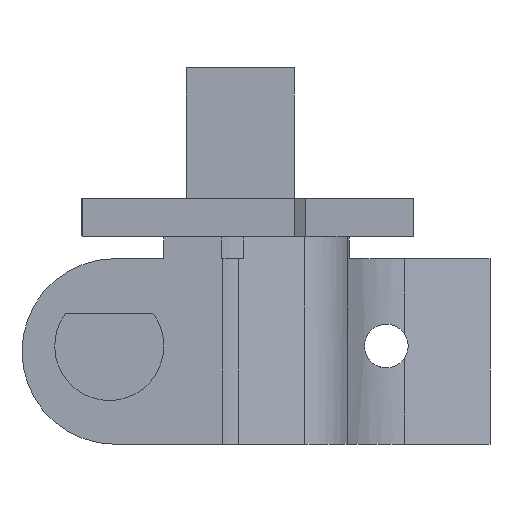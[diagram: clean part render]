
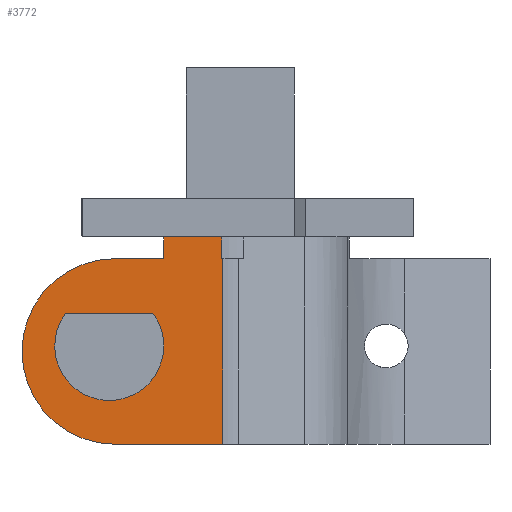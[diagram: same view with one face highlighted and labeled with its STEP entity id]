
A CAD part, front view. The second image highlights one B-rep face of the part: STEP entity #3772.
In plain terms, the highlighted planar face has unit normal (0, -1, 0).
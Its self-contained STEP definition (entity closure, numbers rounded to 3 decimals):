
#2720 = DIRECTION ( 'NONE',  ( 1., 0., 0. ) ) ;
#2721 = VECTOR ( 'NONE', #2720, 1000. ) ;
#2722 = CARTESIAN_POINT ( 'NONE',  ( -2.793, -10.431, 33.1 ) ) ;
#2723 = LINE ( 'NONE', #2722, #2721 ) ;
#2737 = DIRECTION ( 'NONE',  ( -1., 0., 0. ) ) ;
#2738 = VECTOR ( 'NONE', #2737, 1000. ) ;
#2739 = CARTESIAN_POINT ( 'NONE',  ( -17.209, -10.431, 26.1 ) ) ;
#2740 = LINE ( 'NONE', #2739, #2738 ) ;
#2741 = CARTESIAN_POINT ( 'NONE',  ( -2.894, -10.431, 31.1 ) ) ;
#2743 = CARTESIAN_POINT ( 'NONE',  ( -2.894, -10.431, 33.1 ) ) ;
#2916 = CARTESIAN_POINT ( 'NONE',  ( -12.709, -10.431, 14.1 ) ) ;
#2917 = VECTOR ( 'NONE', #2920, 1000. ) ;
#2919 = LINE ( 'NONE', #2974, #2973 ) ;
#2920 = DIRECTION ( 'NONE',  ( -1., 0., 0. ) ) ;
#2921 = CARTESIAN_POINT ( 'NONE',  ( -21.209, -10.431, 31.1 ) ) ;
#2935 = LINE ( 'NONE', #2921, #2917 ) ;
#2946 = AXIS2_PLACEMENT_3D ( 'NONE', #2965, #3010, #3009 ) ;
#2947 = CARTESIAN_POINT ( 'NONE',  ( -13.209, -10.431, 23.1 ) ) ;
#2949 = DIRECTION ( 'NONE',  ( 0., -1., 0. ) ) ;
#2956 = CARTESIAN_POINT ( 'NONE',  ( -2.793, -10.431, 31.1 ) ) ;
#2962 = CIRCLE ( 'NONE', #2946, 8.5 ) ;
#2965 = CARTESIAN_POINT ( 'NONE',  ( -12.709, -10.431, 22.6 ) ) ;
#2966 = DIRECTION ( 'NONE',  ( 1., 0., 0. ) ) ;
#2967 = VECTOR ( 'NONE', #2966, 1000. ) ;
#2968 = CARTESIAN_POINT ( 'NONE',  ( -21.209, -10.431, 14.1 ) ) ;
#2971 = LINE ( 'NONE', #2968, #2967 ) ;
#2972 = DIRECTION ( 'NONE',  ( 1., 0., 0. ) ) ;
#2973 = VECTOR ( 'NONE', #2972, 1000. ) ;
#2974 = CARTESIAN_POINT ( 'NONE',  ( -2.894, -10.431, 31.1 ) ) ;
#2978 = DIRECTION ( 'NONE',  ( 0., 0., -1. ) ) ;
#2979 = CARTESIAN_POINT ( 'NONE',  ( -12.709, -10.431, 31.1 ) ) ;
#2981 = CARTESIAN_POINT ( 'NONE',  ( -8.209, -10.431, 31.1 ) ) ;
#2982 = FACE_OUTER_BOUND ( 'NONE', #3780, .T. ) ;
#2983 = CARTESIAN_POINT ( 'NONE',  ( -2.793, -10.431, 14.1 ) ) ;
#2985 = CARTESIAN_POINT ( 'NONE',  ( -17.209, -10.431, 26.1 ) ) ;
#2992 = DIRECTION ( 'NONE',  ( 0., 0., 1. ) ) ;
#2993 = AXIS2_PLACEMENT_3D ( 'NONE', #2997, #2996, #2978 ) ;
#2996 = DIRECTION ( 'NONE',  ( 0., -1., 0. ) ) ;
#2997 = CARTESIAN_POINT ( 'NONE',  ( -21.209, -10.431, 31.1 ) ) ;
#3002 = AXIS2_PLACEMENT_3D ( 'NONE', #2947, #2949, #2992 ) ;
#3007 = FACE_BOUND ( 'NONE', #3085, .T. ) ;
#3008 = PLANE ( 'NONE',  #2993 ) ;
#3009 = DIRECTION ( 'NONE',  ( 0., 0., 1. ) ) ;
#3010 = DIRECTION ( 'NONE',  ( 0., -1., 0. ) ) ;
#3011 = CIRCLE ( 'NONE', #3002, 5. ) ;
#3027 = CARTESIAN_POINT ( 'NONE',  ( -8.209, -10.431, 33.1 ) ) ;
#3028 = DIRECTION ( 'NONE',  ( 0., 0., -1. ) ) ;
#3029 = VECTOR ( 'NONE', #3028, 1000. ) ;
#3035 = CARTESIAN_POINT ( 'NONE',  ( -8.209, -10.431, 33.1 ) ) ;
#3037 = LINE ( 'NONE', #3035, #3029 ) ;
#3052 = DIRECTION ( 'NONE',  ( 0., 0., 1. ) ) ;
#3053 = VECTOR ( 'NONE', #3052, 1000. ) ;
#3054 = CARTESIAN_POINT ( 'NONE',  ( -2.894, -10.431, 31.1 ) ) ;
#3055 = LINE ( 'NONE', #3054, #3053 ) ;
#3056 = DIRECTION ( 'NONE',  ( 0., 0., 1. ) ) ;
#3057 = VECTOR ( 'NONE', #3056, 1000. ) ;
#3058 = CARTESIAN_POINT ( 'NONE',  ( -2.793, -10.431, 31.1 ) ) ;
#3059 = LINE ( 'NONE', #3058, #3057 ) ;
#3060 = CARTESIAN_POINT ( 'NONE',  ( -9.209, -10.431, 26.1 ) ) ;
#3079 = ORIENTED_EDGE ( 'NONE', *, *, #3100, .F. ) ;
#3081 = ORIENTED_EDGE ( 'NONE', *, *, #3814, .T. ) ;
#3083 = EDGE_CURVE ( 'NONE', #3815, #3776, #2740, .T. ) ;
#3085 = EDGE_LOOP ( 'NONE', ( #3086, #3087 ) ) ;
#3086 = ORIENTED_EDGE ( 'NONE', *, *, #3083, .F. ) ;
#3087 = ORIENTED_EDGE ( 'NONE', *, *, #3766, .F. ) ;
#3089 = ORIENTED_EDGE ( 'NONE', *, *, #3757, .T. ) ;
#3090 = VERTEX_POINT ( 'NONE', #2741 ) ;
#3091 = VERTEX_POINT ( 'NONE', #2743 ) ;
#3100 = EDGE_CURVE ( 'NONE', #3801, #3091, #2723, .T. ) ;
#3741 = ORIENTED_EDGE ( 'NONE', *, *, #3797, .T. ) ;
#3742 = EDGE_CURVE ( 'NONE', #3773, #3777, #2935, .T. ) ;
#3743 = ORIENTED_EDGE ( 'NONE', *, *, #3742, .T. ) ;
#3744 = VERTEX_POINT ( 'NONE', #2916 ) ;
#3749 = EDGE_CURVE ( 'NONE', #3090, #3764, #2919, .T. ) ;
#3750 = EDGE_CURVE ( 'NONE', #3744, #3779, #2971, .T. ) ;
#3757 = EDGE_CURVE ( 'NONE', #3777, #3744, #2962, .T. ) ;
#3764 = VERTEX_POINT ( 'NONE', #2956 ) ;
#3766 = EDGE_CURVE ( 'NONE', #3776, #3815, #3011, .T. ) ;
#3772 = ADVANCED_FACE ( 'NONE', ( #2982, #3007 ), #3008, .T. ) ;
#3773 = VERTEX_POINT ( 'NONE', #2981 ) ;
#3774 = ORIENTED_EDGE ( 'NONE', *, *, #3816, .T. ) ;
#3776 = VERTEX_POINT ( 'NONE', #2985 ) ;
#3777 = VERTEX_POINT ( 'NONE', #2979 ) ;
#3779 = VERTEX_POINT ( 'NONE', #2983 ) ;
#3780 = EDGE_LOOP ( 'NONE', ( #3774, #3079, #3741, #3743, #3089, #3798, #3081, #3813 ) ) ;
#3797 = EDGE_CURVE ( 'NONE', #3801, #3773, #3037, .T. ) ;
#3798 = ORIENTED_EDGE ( 'NONE', *, *, #3750, .T. ) ;
#3801 = VERTEX_POINT ( 'NONE', #3027 ) ;
#3813 = ORIENTED_EDGE ( 'NONE', *, *, #3749, .F. ) ;
#3814 = EDGE_CURVE ( 'NONE', #3779, #3764, #3059, .T. ) ;
#3815 = VERTEX_POINT ( 'NONE', #3060 ) ;
#3816 = EDGE_CURVE ( 'NONE', #3090, #3091, #3055, .T. ) ;
